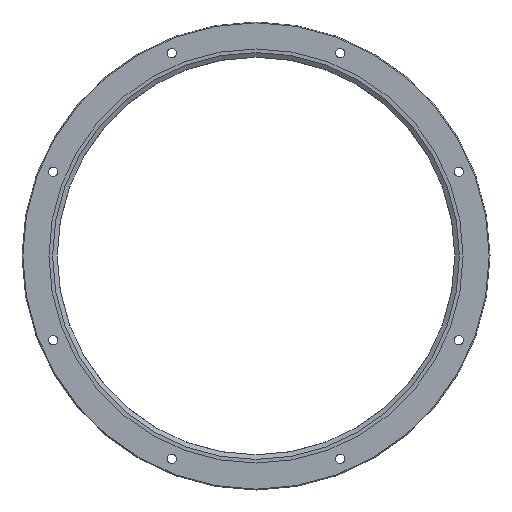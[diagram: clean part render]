
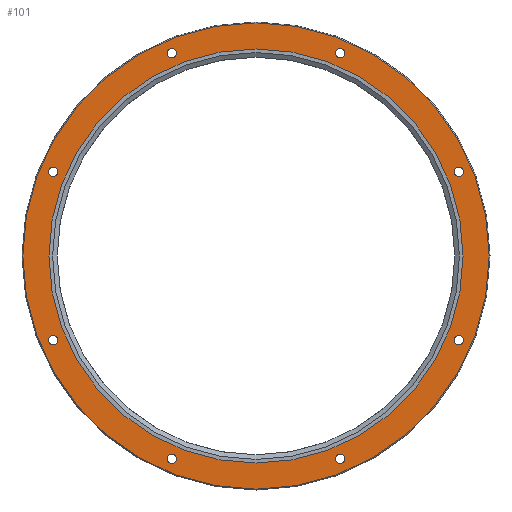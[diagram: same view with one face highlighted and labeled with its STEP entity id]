
A CAD part, front view. The second image highlights one B-rep face of the part: STEP entity #101.
In plain terms, the highlighted planar face has unit normal (0, -1, 0).
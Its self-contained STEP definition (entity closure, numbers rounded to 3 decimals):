
#101=ADVANCED_FACE('',(#190,#191,#192,#193,#194,#195,#196,#197,#198,#199),#200,.T.);
#190=FACE_OUTER_BOUND('',#342,.T.);
#191=FACE_BOUND('',#343,.T.);
#192=FACE_BOUND('',#344,.T.);
#193=FACE_BOUND('',#345,.T.);
#194=FACE_BOUND('',#346,.T.);
#195=FACE_BOUND('',#347,.T.);
#196=FACE_BOUND('',#348,.T.);
#197=FACE_BOUND('',#349,.T.);
#198=FACE_BOUND('',#350,.T.);
#199=FACE_BOUND('',#351,.T.);
#200=PLANE('',#352);
#342=EDGE_LOOP('',(#624,#625));
#343=EDGE_LOOP('',(#626,#627));
#344=EDGE_LOOP('',(#628,#629));
#345=EDGE_LOOP('',(#630,#631));
#346=EDGE_LOOP('',(#632,#633));
#347=EDGE_LOOP('',(#634,#635));
#348=EDGE_LOOP('',(#636,#637));
#349=EDGE_LOOP('',(#638,#639));
#350=EDGE_LOOP('',(#640,#641));
#351=EDGE_LOOP('',(#642,#643));
#352=AXIS2_PLACEMENT_3D('',#644,#645,#646);
#624=ORIENTED_EDGE('',*,*,#978,.F.);
#625=ORIENTED_EDGE('',*,*,#1006,.F.);
#626=ORIENTED_EDGE('',*,*,#1007,.T.);
#627=ORIENTED_EDGE('',*,*,#918,.T.);
#628=ORIENTED_EDGE('',*,*,#1008,.T.);
#629=ORIENTED_EDGE('',*,*,#926,.T.);
#630=ORIENTED_EDGE('',*,*,#1009,.T.);
#631=ORIENTED_EDGE('',*,*,#934,.T.);
#632=ORIENTED_EDGE('',*,*,#1010,.T.);
#633=ORIENTED_EDGE('',*,*,#942,.T.);
#634=ORIENTED_EDGE('',*,*,#1011,.T.);
#635=ORIENTED_EDGE('',*,*,#950,.T.);
#636=ORIENTED_EDGE('',*,*,#1012,.T.);
#637=ORIENTED_EDGE('',*,*,#958,.T.);
#638=ORIENTED_EDGE('',*,*,#1013,.T.);
#639=ORIENTED_EDGE('',*,*,#1002,.T.);
#640=ORIENTED_EDGE('',*,*,#1014,.T.);
#641=ORIENTED_EDGE('',*,*,#974,.T.);
#642=ORIENTED_EDGE('',*,*,#1015,.T.);
#643=ORIENTED_EDGE('',*,*,#966,.T.);
#644=CARTESIAN_POINT('',(-138.5,-9.825,0.0));
#645=DIRECTION('',(0.0,-1.0,0.0));
#646=DIRECTION('',(0.0,0.0,-1.0));
#918=EDGE_CURVE('',#1066,#1067,#1068,.T.);
#926=EDGE_CURVE('',#1082,#1083,#1084,.T.);
#934=EDGE_CURVE('',#1098,#1099,#1100,.T.);
#942=EDGE_CURVE('',#1114,#1115,#1116,.T.);
#950=EDGE_CURVE('',#1130,#1131,#1132,.T.);
#958=EDGE_CURVE('',#1146,#1147,#1148,.T.);
#966=EDGE_CURVE('',#1162,#1163,#1164,.T.);
#974=EDGE_CURVE('',#1178,#1179,#1180,.T.);
#978=EDGE_CURVE('',#1186,#1187,#1188,.T.);
#1002=EDGE_CURVE('',#1228,#1229,#1230,.T.);
#1006=EDGE_CURVE('',#1187,#1186,#1236,.T.);
#1007=EDGE_CURVE('',#1067,#1066,#1237,.T.);
#1008=EDGE_CURVE('',#1083,#1082,#1238,.T.);
#1009=EDGE_CURVE('',#1099,#1098,#1239,.T.);
#1010=EDGE_CURVE('',#1115,#1114,#1240,.T.);
#1011=EDGE_CURVE('',#1131,#1130,#1241,.T.);
#1012=EDGE_CURVE('',#1147,#1146,#1242,.T.);
#1013=EDGE_CURVE('',#1229,#1228,#1243,.T.);
#1014=EDGE_CURVE('',#1179,#1178,#1244,.T.);
#1015=EDGE_CURVE('',#1163,#1162,#1245,.T.);
#1066=VERTEX_POINT('',#1298);
#1067=VERTEX_POINT('',#1299);
#1068=CIRCLE('',#1300,2.75);
#1082=VERTEX_POINT('',#1318);
#1083=VERTEX_POINT('',#1319);
#1084=CIRCLE('',#1320,2.75);
#1098=VERTEX_POINT('',#1338);
#1099=VERTEX_POINT('',#1339);
#1100=CIRCLE('',#1340,2.75);
#1114=VERTEX_POINT('',#1358);
#1115=VERTEX_POINT('',#1359);
#1116=CIRCLE('',#1360,2.75);
#1130=VERTEX_POINT('',#1378);
#1131=VERTEX_POINT('',#1379);
#1132=CIRCLE('',#1380,2.75);
#1146=VERTEX_POINT('',#1398);
#1147=VERTEX_POINT('',#1399);
#1148=CIRCLE('',#1400,2.75);
#1162=VERTEX_POINT('',#1418);
#1163=VERTEX_POINT('',#1419);
#1164=CIRCLE('',#1420,2.75);
#1178=VERTEX_POINT('',#1438);
#1179=VERTEX_POINT('',#1439);
#1180=CIRCLE('',#1440,2.75);
#1186=VERTEX_POINT('',#1448);
#1187=VERTEX_POINT('',#1449);
#1188=CIRCLE('',#1450,138.5);
#1228=VERTEX_POINT('',#1502);
#1229=VERTEX_POINT('',#1503);
#1230=CIRCLE('',#1504,123.0);
#1236=CIRCLE('',#1512,138.5);
#1237=CIRCLE('',#1513,2.75);
#1238=CIRCLE('',#1514,2.75);
#1239=CIRCLE('',#1515,2.75);
#1240=CIRCLE('',#1516,2.75);
#1241=CIRCLE('',#1517,2.75);
#1242=CIRCLE('',#1518,2.75);
#1243=CIRCLE('',#1519,123.0);
#1244=CIRCLE('',#1520,2.75);
#1245=CIRCLE('',#1521,2.75);
#1298=CARTESIAN_POINT('',(-120.566,-9.825,47.19));
#1299=CARTESIAN_POINT('',(-120.566,-9.825,52.69));
#1300=AXIS2_PLACEMENT_3D('',#1580,#1581,#1582);
#1318=CARTESIAN_POINT('',(-49.94,-9.825,117.816));
#1319=CARTESIAN_POINT('',(-49.94,-9.825,123.316));
#1320=AXIS2_PLACEMENT_3D('',#1596,#1597,#1598);
#1338=CARTESIAN_POINT('',(49.94,-9.825,117.816));
#1339=CARTESIAN_POINT('',(49.94,-9.825,123.316));
#1340=AXIS2_PLACEMENT_3D('',#1612,#1613,#1614);
#1358=CARTESIAN_POINT('',(120.566,-9.825,47.19));
#1359=CARTESIAN_POINT('',(120.566,-9.825,52.69));
#1360=AXIS2_PLACEMENT_3D('',#1628,#1629,#1630);
#1378=CARTESIAN_POINT('',(120.566,-9.825,-52.69));
#1379=CARTESIAN_POINT('',(120.566,-9.825,-47.19));
#1380=AXIS2_PLACEMENT_3D('',#1644,#1645,#1646);
#1398=CARTESIAN_POINT('',(49.94,-9.825,-123.316));
#1399=CARTESIAN_POINT('',(49.94,-9.825,-117.816));
#1400=AXIS2_PLACEMENT_3D('',#1660,#1661,#1662);
#1418=CARTESIAN_POINT('',(-49.94,-9.825,-123.316));
#1419=CARTESIAN_POINT('',(-49.94,-9.825,-117.816));
#1420=AXIS2_PLACEMENT_3D('',#1676,#1677,#1678);
#1438=CARTESIAN_POINT('',(-120.566,-9.825,-52.69));
#1439=CARTESIAN_POINT('',(-120.566,-9.825,-47.19));
#1440=AXIS2_PLACEMENT_3D('',#1692,#1693,#1694);
#1448=CARTESIAN_POINT('',(0.0,-9.825,138.5));
#1449=CARTESIAN_POINT('',(0.,-9.825,-138.5));
#1450=AXIS2_PLACEMENT_3D('',#1700,#1701,#1702);
#1502=CARTESIAN_POINT('',(0.,-9.825,-123.0));
#1503=CARTESIAN_POINT('',(0.0,-9.825,123.0));
#1504=AXIS2_PLACEMENT_3D('',#1748,#1749,#1750);
#1512=AXIS2_PLACEMENT_3D('',#1756,#1757,#1758);
#1513=AXIS2_PLACEMENT_3D('',#1759,#1760,#1761);
#1514=AXIS2_PLACEMENT_3D('',#1762,#1763,#1764);
#1515=AXIS2_PLACEMENT_3D('',#1765,#1766,#1767);
#1516=AXIS2_PLACEMENT_3D('',#1768,#1769,#1770);
#1517=AXIS2_PLACEMENT_3D('',#1771,#1772,#1773);
#1518=AXIS2_PLACEMENT_3D('',#1774,#1775,#1776);
#1519=AXIS2_PLACEMENT_3D('',#1777,#1778,#1779);
#1520=AXIS2_PLACEMENT_3D('',#1780,#1781,#1782);
#1521=AXIS2_PLACEMENT_3D('',#1783,#1784,#1785);
#1580=CARTESIAN_POINT('',(-120.566,-9.825,49.94));
#1581=DIRECTION('',(-0.0,1.0,0.0));
#1582=DIRECTION('',(0.0,0.0,1.0));
#1596=CARTESIAN_POINT('',(-49.94,-9.825,120.566));
#1597=DIRECTION('',(-0.0,1.0,0.0));
#1598=DIRECTION('',(0.0,0.0,1.0));
#1612=CARTESIAN_POINT('',(49.94,-9.825,120.566));
#1613=DIRECTION('',(-0.0,1.0,0.0));
#1614=DIRECTION('',(0.0,0.0,1.0));
#1628=CARTESIAN_POINT('',(120.566,-9.825,49.94));
#1629=DIRECTION('',(-0.0,1.0,0.0));
#1630=DIRECTION('',(0.0,0.0,1.0));
#1644=CARTESIAN_POINT('',(120.566,-9.825,-49.94));
#1645=DIRECTION('',(-0.0,1.0,0.0));
#1646=DIRECTION('',(0.0,0.0,1.0));
#1660=CARTESIAN_POINT('',(49.94,-9.825,-120.566));
#1661=DIRECTION('',(-0.0,1.0,0.0));
#1662=DIRECTION('',(0.0,0.0,1.0));
#1676=CARTESIAN_POINT('',(-49.94,-9.825,-120.566));
#1677=DIRECTION('',(-0.0,1.0,0.0));
#1678=DIRECTION('',(0.0,0.0,1.0));
#1692=CARTESIAN_POINT('',(-120.566,-9.825,-49.94));
#1693=DIRECTION('',(-0.0,1.0,0.0));
#1694=DIRECTION('',(0.0,0.0,1.0));
#1700=CARTESIAN_POINT('',(0.0,-9.825,0.0));
#1701=DIRECTION('',(-0.0,1.0,0.0));
#1702=DIRECTION('',(0.0,0.0,1.0));
#1748=CARTESIAN_POINT('',(0.0,-9.825,0.0));
#1749=DIRECTION('',(-0.0,1.0,0.0));
#1750=DIRECTION('',(0.0,0.0,1.0));
#1756=CARTESIAN_POINT('',(0.0,-9.825,0.0));
#1757=DIRECTION('',(-0.0,1.0,0.0));
#1758=DIRECTION('',(0.0,0.0,1.0));
#1759=CARTESIAN_POINT('',(-120.566,-9.825,49.94));
#1760=DIRECTION('',(-0.0,1.0,0.0));
#1761=DIRECTION('',(0.0,0.0,1.0));
#1762=CARTESIAN_POINT('',(-49.94,-9.825,120.566));
#1763=DIRECTION('',(-0.0,1.0,0.0));
#1764=DIRECTION('',(0.0,0.0,1.0));
#1765=CARTESIAN_POINT('',(49.94,-9.825,120.566));
#1766=DIRECTION('',(-0.0,1.0,0.0));
#1767=DIRECTION('',(0.0,0.0,1.0));
#1768=CARTESIAN_POINT('',(120.566,-9.825,49.94));
#1769=DIRECTION('',(-0.0,1.0,0.0));
#1770=DIRECTION('',(0.0,0.0,1.0));
#1771=CARTESIAN_POINT('',(120.566,-9.825,-49.94));
#1772=DIRECTION('',(-0.0,1.0,0.0));
#1773=DIRECTION('',(0.0,0.0,1.0));
#1774=CARTESIAN_POINT('',(49.94,-9.825,-120.566));
#1775=DIRECTION('',(-0.0,1.0,0.0));
#1776=DIRECTION('',(0.0,0.0,1.0));
#1777=CARTESIAN_POINT('',(0.0,-9.825,0.0));
#1778=DIRECTION('',(-0.0,1.0,0.0));
#1779=DIRECTION('',(0.0,0.0,1.0));
#1780=CARTESIAN_POINT('',(-120.566,-9.825,-49.94));
#1781=DIRECTION('',(-0.0,1.0,0.0));
#1782=DIRECTION('',(0.0,0.0,1.0));
#1783=CARTESIAN_POINT('',(-49.94,-9.825,-120.566));
#1784=DIRECTION('',(-0.0,1.0,0.0));
#1785=DIRECTION('',(0.0,0.0,1.0));
